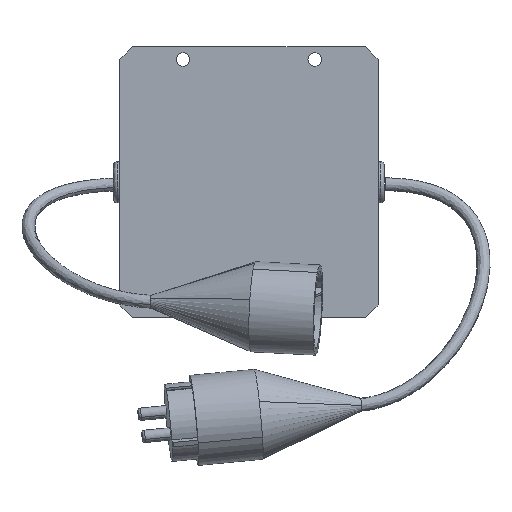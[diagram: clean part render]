
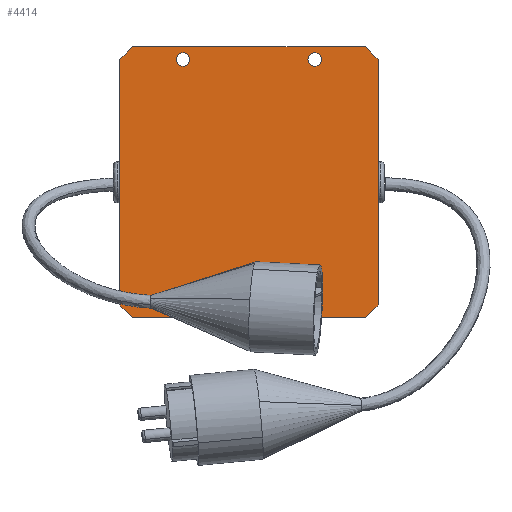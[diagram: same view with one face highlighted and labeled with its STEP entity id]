
A CAD part, front view. The second image highlights one B-rep face of the part: STEP entity #4414.
In plain terms, the highlighted planar face has unit normal (0, -1, 0).
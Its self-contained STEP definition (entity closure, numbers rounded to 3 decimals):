
#6 = VERTEX_POINT ( 'NONE', #2089 ) ;
#19 = DIRECTION ( 'NONE',  ( 0., 1., 0. ) ) ;
#71 = VECTOR ( 'NONE', #3771, 1000. ) ;
#89 = EDGE_CURVE ( 'NONE', #1495, #6, #2581, .T. ) ;
#171 = EDGE_CURVE ( 'NONE', #1672, #744, #3260, .T. ) ;
#176 = DIRECTION ( 'NONE',  ( 0., 0., -1. ) ) ;
#190 = VECTOR ( 'NONE', #2193, 1000. ) ;
#201 = DIRECTION ( 'NONE',  ( 0., 1., 0. ) ) ;
#247 = EDGE_CURVE ( 'NONE', #757, #1495, #3994, .T. ) ;
#434 = VECTOR ( 'NONE', #4508, 1000. ) ;
#483 = DIRECTION ( 'NONE',  ( 0., 1., 0. ) ) ;
#513 = CARTESIAN_POINT ( 'NONE',  ( 0., 0., -105. ) ) ;
#552 = AXIS2_PLACEMENT_3D ( 'NONE', #812, #3305, #1179 ) ;
#562 = CARTESIAN_POINT ( 'NONE',  ( 5., 0., 0. ) ) ;
#566 = AXIS2_PLACEMENT_3D ( 'NONE', #2361, #201, #2705 ) ;
#588 = VERTEX_POINT ( 'NONE', #2643 ) ;
#671 = EDGE_CURVE ( 'NONE', #967, #2157, #4177, .T. ) ;
#744 = VERTEX_POINT ( 'NONE', #1353 ) ;
#757 = VERTEX_POINT ( 'NONE', #1007 ) ;
#812 = CARTESIAN_POINT ( 'NONE',  ( 75.5, 0., -5. ) ) ;
#878 = VERTEX_POINT ( 'NONE', #4646 ) ;
#894 = FACE_BOUND ( 'NONE', #975, .T. ) ;
#925 = DIRECTION ( 'NONE',  ( 0., 0., 1. ) ) ;
#967 = VERTEX_POINT ( 'NONE', #3617 ) ;
#975 = EDGE_LOOP ( 'NONE', ( #3273, #2699 ) ) ;
#991 = CARTESIAN_POINT ( 'NONE',  ( 24.5, 0., -5. ) ) ;
#1007 = CARTESIAN_POINT ( 'NONE',  ( 95., 0., 0. ) ) ;
#1066 = EDGE_CURVE ( 'NONE', #588, #2008, #2346, .T. ) ;
#1076 = DIRECTION ( 'NONE',  ( -0.707, 0., -0.707 ) ) ;
#1092 = CARTESIAN_POINT ( 'NONE',  ( 0., 0., 0. ) ) ;
#1155 = VECTOR ( 'NONE', #2838, 1000. ) ;
#1179 = DIRECTION ( 'NONE',  ( 0., 0., -1. ) ) ;
#1314 = VERTEX_POINT ( 'NONE', #2065 ) ;
#1318 = CARTESIAN_POINT ( 'NONE',  ( 0., 0., -105. ) ) ;
#1351 = DIRECTION ( 'NONE',  ( 0., 0., -1. ) ) ;
#1353 = CARTESIAN_POINT ( 'NONE',  ( 75.5, 0., -7.65 ) ) ;
#1376 = CARTESIAN_POINT ( 'NONE',  ( 75.5, 0., -2.35 ) ) ;
#1396 = CARTESIAN_POINT ( 'NONE',  ( 75.5, 0., -100. ) ) ;
#1400 = CIRCLE ( 'NONE', #3769, 2.65 ) ;
#1495 = VERTEX_POINT ( 'NONE', #562 ) ;
#1527 = DIRECTION ( 'NONE',  ( 0., 1., 0. ) ) ;
#1574 = VERTEX_POINT ( 'NONE', #3467 ) ;
#1581 = LINE ( 'NONE', #513, #2408 ) ;
#1627 = VERTEX_POINT ( 'NONE', #2771 ) ;
#1672 = VERTEX_POINT ( 'NONE', #1376 ) ;
#1702 = EDGE_CURVE ( 'NONE', #3243, #4340, #2438, .T. ) ;
#1703 = AXIS2_PLACEMENT_3D ( 'NONE', #1396, #3884, #1752 ) ;
#1752 = DIRECTION ( 'NONE',  ( 0., 0., -1. ) ) ;
#1798 = EDGE_CURVE ( 'NONE', #4504, #1574, #3394, .T. ) ;
#1811 = EDGE_CURVE ( 'NONE', #1314, #757, #3150, .T. ) ;
#1847 = FACE_BOUND ( 'NONE', #3778, .T. ) ;
#1968 = CIRCLE ( 'NONE', #2963, 2.65 ) ;
#1989 = CIRCLE ( 'NONE', #566, 2.65 ) ;
#2008 = VERTEX_POINT ( 'NONE', #3596 ) ;
#2042 = DIRECTION ( 'NONE',  ( 0., -1., 0. ) ) ;
#2065 = CARTESIAN_POINT ( 'NONE',  ( 100., 0., -5. ) ) ;
#2066 = CARTESIAN_POINT ( 'NONE',  ( 5., 0., 0. ) ) ;
#2089 = CARTESIAN_POINT ( 'NONE',  ( 0., 0., -5. ) ) ;
#2134 = AXIS2_PLACEMENT_3D ( 'NONE', #2174, #19, #2531 ) ;
#2144 = CARTESIAN_POINT ( 'NONE',  ( 100., 0., -5. ) ) ;
#2157 = VERTEX_POINT ( 'NONE', #3942 ) ;
#2166 = ORIENTED_EDGE ( 'NONE', *, *, #247, .T. ) ;
#2174 = CARTESIAN_POINT ( 'NONE',  ( 75.5, 0., -5. ) ) ;
#2184 = VECTOR ( 'NONE', #925, 1000. ) ;
#2193 = DIRECTION ( 'NONE',  ( -1., 0., 0. ) ) ;
#2211 = ORIENTED_EDGE ( 'NONE', *, *, #1702, .T. ) ;
#2324 = DIRECTION ( 'NONE',  ( 0., 1., 0. ) ) ;
#2346 = LINE ( 'NONE', #3428, #434 ) ;
#2351 = CARTESIAN_POINT ( 'NONE',  ( 100., 0., -105. ) ) ;
#2361 = CARTESIAN_POINT ( 'NONE',  ( 24.5, 0., -100. ) ) ;
#2391 = EDGE_LOOP ( 'NONE', ( #3606, #3622, #2166, #3101, #2696, #2759, #4325, #3312 ) ) ;
#2408 = VECTOR ( 'NONE', #3373, 1000. ) ;
#2438 = CIRCLE ( 'NONE', #1703, 2.65 ) ;
#2482 = CARTESIAN_POINT ( 'NONE',  ( 95., 0., -105. ) ) ;
#2509 = CARTESIAN_POINT ( 'NONE',  ( 95., 0., -105. ) ) ;
#2531 = DIRECTION ( 'NONE',  ( 0., 0., -1. ) ) ;
#2560 = AXIS2_PLACEMENT_3D ( 'NONE', #4473, #2324, #176 ) ;
#2581 = LINE ( 'NONE', #2066, #4500 ) ;
#2625 = CARTESIAN_POINT ( 'NONE',  ( 24.5, 0., -100. ) ) ;
#2643 = CARTESIAN_POINT ( 'NONE',  ( 0., 0., -100. ) ) ;
#2696 = ORIENTED_EDGE ( 'NONE', *, *, #3750, .T. ) ;
#2699 = ORIENTED_EDGE ( 'NONE', *, *, #3521, .T. ) ;
#2705 = DIRECTION ( 'NONE',  ( 0., 0., -1. ) ) ;
#2759 = ORIENTED_EDGE ( 'NONE', *, *, #1066, .T. ) ;
#2771 = CARTESIAN_POINT ( 'NONE',  ( 24.5, 0., -102.65 ) ) ;
#2779 = FACE_BOUND ( 'NONE', #3334, .T. ) ;
#2813 = EDGE_CURVE ( 'NONE', #1627, #878, #1989, .T. ) ;
#2838 = DIRECTION ( 'NONE',  ( 0.707, 0., 0.707 ) ) ;
#2885 = EDGE_CURVE ( 'NONE', #2008, #4504, #3040, .T. ) ;
#2951 = AXIS2_PLACEMENT_3D ( 'NONE', #1318, #2042, #4549 ) ;
#2963 = AXIS2_PLACEMENT_3D ( 'NONE', #2625, #483, #2973 ) ;
#2973 = DIRECTION ( 'NONE',  ( 0., 0., -1. ) ) ;
#3040 = LINE ( 'NONE', #3427, #71 ) ;
#3046 = ORIENTED_EDGE ( 'NONE', *, *, #4189, .T. ) ;
#3101 = ORIENTED_EDGE ( 'NONE', *, *, #89, .T. ) ;
#3122 = LINE ( 'NONE', #2351, #2184 ) ;
#3150 = LINE ( 'NONE', #2144, #3885 ) ;
#3204 = EDGE_LOOP ( 'NONE', ( #3409, #3925 ) ) ;
#3238 = EDGE_CURVE ( 'NONE', #878, #1627, #1968, .T. ) ;
#3243 = VERTEX_POINT ( 'NONE', #3306 ) ;
#3260 = CIRCLE ( 'NONE', #2134, 2.65 ) ;
#3265 = AXIS2_PLACEMENT_3D ( 'NONE', #991, #3483, #1351 ) ;
#3273 = ORIENTED_EDGE ( 'NONE', *, *, #671, .T. ) ;
#3305 = DIRECTION ( 'NONE',  ( 0., 1., 0. ) ) ;
#3306 = CARTESIAN_POINT ( 'NONE',  ( 75.5, 0., -97.35 ) ) ;
#3312 = ORIENTED_EDGE ( 'NONE', *, *, #1798, .T. ) ;
#3334 = EDGE_LOOP ( 'NONE', ( #3046, #2211 ) ) ;
#3373 = DIRECTION ( 'NONE',  ( 0., 0., -1. ) ) ;
#3394 = LINE ( 'NONE', #2482, #1155 ) ;
#3409 = ORIENTED_EDGE ( 'NONE', *, *, #3688, .T. ) ;
#3427 = CARTESIAN_POINT ( 'NONE',  ( 0., 0., -105. ) ) ;
#3428 = CARTESIAN_POINT ( 'NONE',  ( 0., 0., -100. ) ) ;
#3467 = CARTESIAN_POINT ( 'NONE',  ( 100., 0., -100. ) ) ;
#3483 = DIRECTION ( 'NONE',  ( 0., 1., 0. ) ) ;
#3501 = CIRCLE ( 'NONE', #3265, 2.65 ) ;
#3521 = EDGE_CURVE ( 'NONE', #2157, #967, #3501, .T. ) ;
#3559 = DIRECTION ( 'NONE',  ( -0.707, 0., 0.707 ) ) ;
#3596 = CARTESIAN_POINT ( 'NONE',  ( 5., 0., -105. ) ) ;
#3606 = ORIENTED_EDGE ( 'NONE', *, *, #3808, .T. ) ;
#3617 = CARTESIAN_POINT ( 'NONE',  ( 24.5, 0., -7.65 ) ) ;
#3622 = ORIENTED_EDGE ( 'NONE', *, *, #1811, .T. ) ;
#3624 = FACE_BOUND ( 'NONE', #3204, .T. ) ;
#3643 = CARTESIAN_POINT ( 'NONE',  ( 75.5, 0., -100. ) ) ;
#3688 = EDGE_CURVE ( 'NONE', #744, #1672, #4015, .T. ) ;
#3691 = CARTESIAN_POINT ( 'NONE',  ( 75.5, 0., -102.65 ) ) ;
#3750 = EDGE_CURVE ( 'NONE', #6, #588, #1581, .T. ) ;
#3769 = AXIS2_PLACEMENT_3D ( 'NONE', #3643, #1527, #4003 ) ;
#3771 = DIRECTION ( 'NONE',  ( 1., 0., 0. ) ) ;
#3778 = EDGE_LOOP ( 'NONE', ( #3828, #4579 ) ) ;
#3808 = EDGE_CURVE ( 'NONE', #1574, #1314, #3122, .T. ) ;
#3828 = ORIENTED_EDGE ( 'NONE', *, *, #2813, .T. ) ;
#3884 = DIRECTION ( 'NONE',  ( 0., 1., 0. ) ) ;
#3885 = VECTOR ( 'NONE', #3559, 1000. ) ;
#3925 = ORIENTED_EDGE ( 'NONE', *, *, #171, .T. ) ;
#3942 = CARTESIAN_POINT ( 'NONE',  ( 24.5, 0., -2.35 ) ) ;
#3994 = LINE ( 'NONE', #1092, #190 ) ;
#4003 = DIRECTION ( 'NONE',  ( 0., 0., -1. ) ) ;
#4015 = CIRCLE ( 'NONE', #552, 2.65 ) ;
#4175 = PLANE ( 'NONE',  #2951 ) ;
#4177 = CIRCLE ( 'NONE', #2560, 2.65 ) ;
#4189 = EDGE_CURVE ( 'NONE', #4340, #3243, #1400, .T. ) ;
#4325 = ORIENTED_EDGE ( 'NONE', *, *, #2885, .T. ) ;
#4340 = VERTEX_POINT ( 'NONE', #3691 ) ;
#4414 = ADVANCED_FACE ( 'NONE', ( #4590, #894, #3624, #2779, #1847 ), #4175, .T. ) ;
#4473 = CARTESIAN_POINT ( 'NONE',  ( 24.5, 0., -5. ) ) ;
#4500 = VECTOR ( 'NONE', #1076, 1000. ) ;
#4504 = VERTEX_POINT ( 'NONE', #2509 ) ;
#4508 = DIRECTION ( 'NONE',  ( 0.707, 0., -0.707 ) ) ;
#4549 = DIRECTION ( 'NONE',  ( 0., 0., -1. ) ) ;
#4579 = ORIENTED_EDGE ( 'NONE', *, *, #3238, .T. ) ;
#4590 = FACE_OUTER_BOUND ( 'NONE', #2391, .T. ) ;
#4646 = CARTESIAN_POINT ( 'NONE',  ( 24.5, 0., -97.35 ) ) ;
